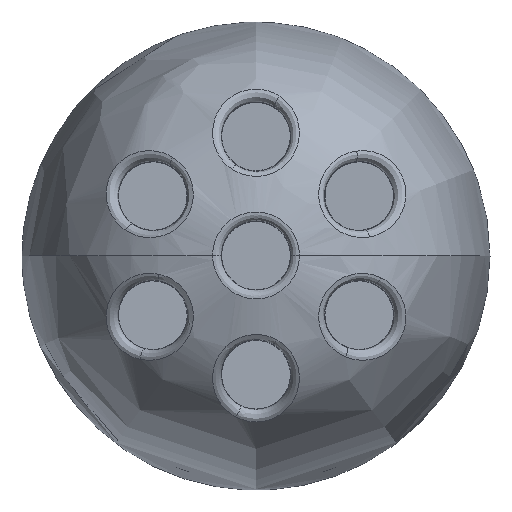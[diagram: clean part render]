
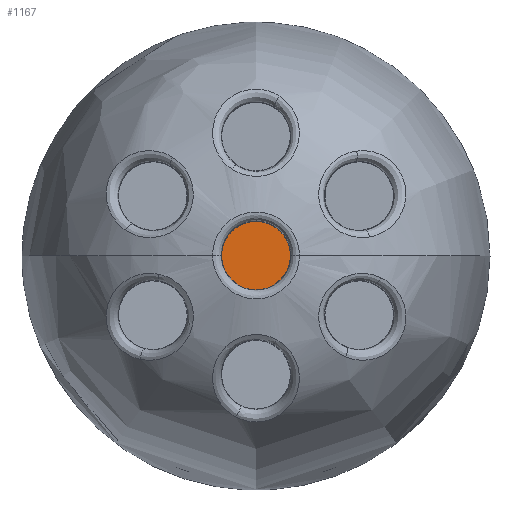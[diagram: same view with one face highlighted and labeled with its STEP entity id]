
A CAD part, top view. The second image highlights one B-rep face of the part: STEP entity #1167.
In plain terms, the highlighted planar face has unit normal (0, 0, 1).
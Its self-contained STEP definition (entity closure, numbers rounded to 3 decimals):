
#1167=ADVANCED_FACE('',(#2643),#22538,.T.);
#2643=FACE_OUTER_BOUND('',#4046,.T.);
#4046=EDGE_LOOP('',(#6077,#6078));
#6077=ORIENTED_EDGE('',*,*,#14116,.T.);
#6078=ORIENTED_EDGE('',*,*,#12949,.F.);
#12949=EDGE_CURVE('',#20422,#20423,#16410,.T.);
#14116=EDGE_CURVE('',#20422,#20423,#16482,.T.);
#16410=(
BOUNDED_CURVE()
B_SPLINE_CURVE(2,(#28201,#28202,#28203,#28204,#28205),.UNSPECIFIED.,.F.,
 .F.)
B_SPLINE_CURVE_WITH_KNOTS((3,2,3),(0.,14.,28.),.UNSPECIFIED.)
CURVE()
GEOMETRIC_REPRESENTATION_ITEM()
RATIONAL_B_SPLINE_CURVE((1.,0.707,1.,0.707,1.))
REPRESENTATION_ITEM('')
);
#16482=(
BOUNDED_CURVE()
B_SPLINE_CURVE(2,(#30773,#30774,#30775,#30776,#30777),.UNSPECIFIED.,.F.,
 .F.)
B_SPLINE_CURVE_WITH_KNOTS((3,2,3),(-28.,-14.,0.),.UNSPECIFIED.)
CURVE()
GEOMETRIC_REPRESENTATION_ITEM()
RATIONAL_B_SPLINE_CURVE((1.,0.707,1.,0.707,1.))
REPRESENTATION_ITEM('')
);
#20422=VERTEX_POINT('',#26925);
#20423=VERTEX_POINT('',#26926);
#22538=PLANE('',#23425);
#23425=AXIS2_PLACEMENT_3D('',#25622,#24326,$);
#24326=DIRECTION('',(0.,0.,1.));
#25622=CARTESIAN_POINT('',(-8.4,-8.4,3.5));
#26925=CARTESIAN_POINT('',(7.,0.,3.5));
#26926=CARTESIAN_POINT('',(-7.,0.,3.5));
#28201=CARTESIAN_POINT('',(7.,0.,3.5));
#28202=CARTESIAN_POINT('',(7.,-7.,3.5));
#28203=CARTESIAN_POINT('',(0.,-7.,3.5));
#28204=CARTESIAN_POINT('',(-7.,-7.,3.5));
#28205=CARTESIAN_POINT('',(-7.,0.,3.5));
#30773=CARTESIAN_POINT('',(7.,0.,3.5));
#30774=CARTESIAN_POINT('',(7.,7.,3.5));
#30775=CARTESIAN_POINT('',(0.,7.,3.5));
#30776=CARTESIAN_POINT('',(-7.,7.,3.5));
#30777=CARTESIAN_POINT('',(-7.,0.,3.5));
